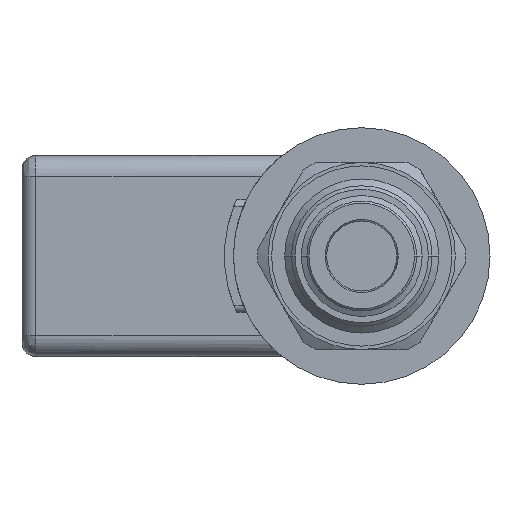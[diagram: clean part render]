
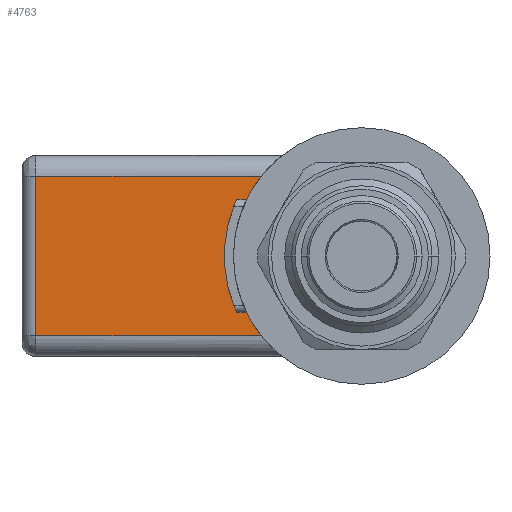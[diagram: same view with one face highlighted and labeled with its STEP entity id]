
A CAD part, left-side view. The second image highlights one B-rep face of the part: STEP entity #4763.
In plain terms, the highlighted planar face has unit normal (-1, 0, 0).
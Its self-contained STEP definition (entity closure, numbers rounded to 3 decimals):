
#2141=DIRECTION('',(0.,1.,0.));
#2142=VECTOR('',#2141,32.509);
#2143=CARTESIAN_POINT('',(13.,14.491,11.5));
#2144=LINE('',#2143,#2142);
#2145=CARTESIAN_POINT('',(13.,0.,0.));
#2146=DIRECTION('',(-1.,0.,0.));
#2147=DIRECTION('',(0.,0.783,0.622));
#2148=AXIS2_PLACEMENT_3D('',#2145,#2146,#2147);
#2150=CARTESIAN_POINT('',(13.,0.,0.));
#2151=DIRECTION('',(-1.,0.,0.));
#2152=DIRECTION('',(0.,0.911,0.412));
#2153=AXIS2_PLACEMENT_3D('',#2150,#2151,#2152);
#2155=DIRECTION('',(0.,-1.,0.));
#2156=VECTOR('',#2155,1.437);
#2157=CARTESIAN_POINT('',(13.,18.045,-8.15));
#2158=LINE('',#2157,#2156);
#2159=CARTESIAN_POINT('',(13.,0.,0.));
#2160=DIRECTION('',(-1.,0.,0.));
#2161=DIRECTION('',(0.,0.898,-0.441));
#2162=AXIS2_PLACEMENT_3D('',#2159,#2160,#2161);
#2168=DIRECTION('',(0.,0.,-1.));
#2169=VECTOR('',#2168,23.);
#2170=CARTESIAN_POINT('',(13.,47.,11.5));
#2171=LINE('',#2170,#2169);
#2187=DIRECTION('',(0.,-1.,0.));
#2188=VECTOR('',#2187,32.509);
#2189=CARTESIAN_POINT('',(13.,47.,-11.5));
#2190=LINE('',#2189,#2188);
#2191=CARTESIAN_POINT('',(13.,14.491,-11.5));
#2258=DIRECTION('',(0.,-1.,0.));
#2259=VECTOR('',#2258,1.437);
#2260=CARTESIAN_POINT('',(13.,18.045,8.15));
#2261=LINE('',#2260,#2259);
#2495=CARTESIAN_POINT('',(13.,16.608,8.15));
#2496=VERTEX_POINT('',#2495);
#2497=CARTESIAN_POINT('',(13.,14.491,11.5));
#2498=VERTEX_POINT('',#2497);
#2517=CARTESIAN_POINT('',(13.,18.045,-8.15));
#2518=VERTEX_POINT('',#2517);
#2519=CARTESIAN_POINT('',(13.,18.045,8.15));
#2520=VERTEX_POINT('',#2519);
#2523=CARTESIAN_POINT('',(13.,16.608,-8.15));
#2524=VERTEX_POINT('',#2523);
#2530=VERTEX_POINT('',#2191);
#2590=CARTESIAN_POINT('',(13.,47.,11.5));
#2591=VERTEX_POINT('',#2590);
#2592=CARTESIAN_POINT('',(13.,47.,-11.5));
#2593=VERTEX_POINT('',#2592);
#4745=CARTESIAN_POINT('',(13.,29.,-11.5));
#4746=DIRECTION('',(-1.,0.,0.));
#4747=DIRECTION('',(0.,0.,1.));
#4748=AXIS2_PLACEMENT_3D('',#4745,#4746,#4747);
#4749=PLANE('',#4748);
#4751=ORIENTED_EDGE('',*,*,#4750,.F.);
#4752=ORIENTED_EDGE('',*,*,#4740,.F.);
#4753=ORIENTED_EDGE('',*,*,#2780,.T.);
#4755=ORIENTED_EDGE('',*,*,#4754,.F.);
#4756=ORIENTED_EDGE('',*,*,#2844,.T.);
#4757=ORIENTED_EDGE('',*,*,#2873,.T.);
#4758=ORIENTED_EDGE('',*,*,#2901,.T.);
#4760=ORIENTED_EDGE('',*,*,#4759,.F.);
#4761=EDGE_LOOP('',(#4751,#4752,#4753,#4755,#4756,#4757,#4758,#4760));
#4762=FACE_OUTER_BOUND('',#4761,.F.);
#2149=CIRCLE('',#2148,18.5);
#2154=CIRCLE('',#2153,19.8);
#2163=CIRCLE('',#2162,18.5);
#2780=EDGE_CURVE('',#2498,#2496,#2149,.T.);
#2844=EDGE_CURVE('',#2520,#2518,#2154,.T.);
#2873=EDGE_CURVE('',#2518,#2524,#2158,.T.);
#2901=EDGE_CURVE('',#2524,#2530,#2163,.T.);
#4740=EDGE_CURVE('',#2498,#2591,#2144,.T.);
#4750=EDGE_CURVE('',#2591,#2593,#2171,.T.);
#4754=EDGE_CURVE('',#2520,#2496,#2261,.T.);
#4759=EDGE_CURVE('',#2593,#2530,#2190,.T.);
#4763=ADVANCED_FACE('',(#4762),#4749,.T.);
